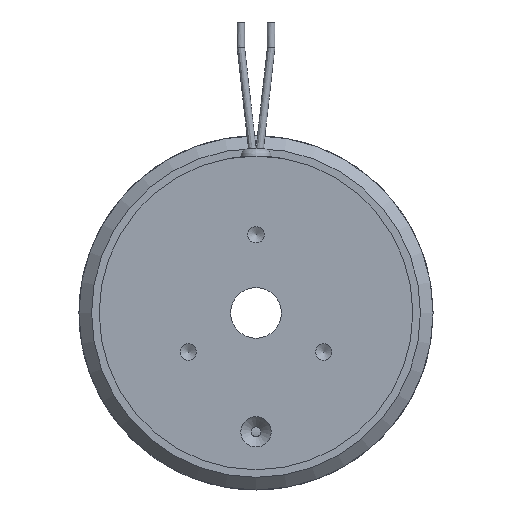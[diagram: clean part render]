
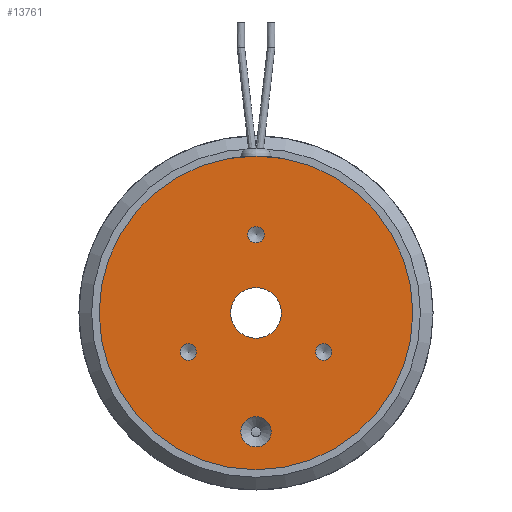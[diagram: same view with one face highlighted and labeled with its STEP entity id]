
A CAD part, left-side view. The second image highlights one B-rep face of the part: STEP entity #13761.
In plain terms, the highlighted planar face has unit normal (-1, 0, 0).
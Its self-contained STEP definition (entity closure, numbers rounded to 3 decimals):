
#56=FACE_BOUND('',#1509,.T.);
#57=FACE_BOUND('',#1510,.T.);
#58=FACE_BOUND('',#1511,.T.);
#59=FACE_BOUND('',#1512,.T.);
#60=FACE_BOUND('',#1513,.T.);
#214=PLANE('',#15339);
#794=FACE_OUTER_BOUND('',#1508,.T.);
#1508=EDGE_LOOP('',(#11271));
#1509=EDGE_LOOP('',(#11272));
#1510=EDGE_LOOP('',(#11273));
#1511=EDGE_LOOP('',(#11274));
#1512=EDGE_LOOP('',(#11275));
#1513=EDGE_LOOP('',(#11276));
#4179=CIRCLE('',#14998,31.);
#4362=CIRCLE('',#15315,3.);
#4365=CIRCLE('',#15321,1.621);
#4367=CIRCLE('',#15325,1.621);
#4369=CIRCLE('',#15329,1.621);
#4372=CIRCLE('',#15338,5.);
#5415=VERTEX_POINT('',#22811);
#5677=VERTEX_POINT('',#23666);
#5681=VERTEX_POINT('',#23679);
#5684=VERTEX_POINT('',#23688);
#5687=VERTEX_POINT('',#23697);
#5690=VERTEX_POINT('',#23713);
#7171=EDGE_CURVE('',#5415,#5415,#4179,.T.);
#7575=EDGE_CURVE('',#5677,#5677,#4362,.T.);
#7581=EDGE_CURVE('',#5681,#5681,#4365,.T.);
#7585=EDGE_CURVE('',#5684,#5684,#4367,.T.);
#7589=EDGE_CURVE('',#5687,#5687,#4369,.T.);
#7597=EDGE_CURVE('',#5690,#5690,#4372,.T.);
#11271=ORIENTED_EDGE('',*,*,#7171,.F.);
#11272=ORIENTED_EDGE('',*,*,#7575,.T.);
#11273=ORIENTED_EDGE('',*,*,#7581,.T.);
#11274=ORIENTED_EDGE('',*,*,#7585,.T.);
#11275=ORIENTED_EDGE('',*,*,#7589,.T.);
#11276=ORIENTED_EDGE('',*,*,#7597,.T.);
#13761=ADVANCED_FACE('',(#794,#56,#57,#58,#59,#60),#214,.T.);
#14998=AXIS2_PLACEMENT_3D('',#22813,#18416,#18417);
#15315=AXIS2_PLACEMENT_3D('',#23667,#19269,#19270);
#15321=AXIS2_PLACEMENT_3D('',#23680,#19284,#19285);
#15325=AXIS2_PLACEMENT_3D('',#23689,#19294,#19295);
#15329=AXIS2_PLACEMENT_3D('',#23698,#19304,#19305);
#15338=AXIS2_PLACEMENT_3D('',#23715,#19327,#19328);
#15339=AXIS2_PLACEMENT_3D('',#23716,#19329,#19330);
#18416=DIRECTION('center_axis',(1.,0.,0.));
#18417=DIRECTION('ref_axis',(0.,0.,-1.));
#19269=DIRECTION('center_axis',(1.,0.,0.));
#19270=DIRECTION('ref_axis',(0.,0.,1.));
#19284=DIRECTION('center_axis',(1.,0.,0.));
#19285=DIRECTION('ref_axis',(0.,0.,1.));
#19294=DIRECTION('center_axis',(1.,0.,0.));
#19295=DIRECTION('ref_axis',(0.,0.,1.));
#19304=DIRECTION('center_axis',(1.,0.,0.));
#19305=DIRECTION('ref_axis',(0.,0.,1.));
#19327=DIRECTION('center_axis',(1.,0.,0.));
#19328=DIRECTION('ref_axis',(0.,0.,-1.));
#19329=DIRECTION('center_axis',(-1.,0.,0.));
#19330=DIRECTION('ref_axis',(0.,0.,1.));
#22811=CARTESIAN_POINT('',(-10.5,-31.,0.));
#22813=CARTESIAN_POINT('Origin',(-10.5,0.,0.));
#23666=CARTESIAN_POINT('',(-10.5,0.,-26.5));
#23667=CARTESIAN_POINT('Origin',(-10.5,0.,-23.5));
#23679=CARTESIAN_POINT('',(-10.5,-13.384,-9.348));
#23680=CARTESIAN_POINT('Origin',(-10.5,-13.384,-7.727));
#23688=CARTESIAN_POINT('',(-10.5,13.384,-9.348));
#23689=CARTESIAN_POINT('Origin',(-10.5,13.384,-7.727));
#23697=CARTESIAN_POINT('',(-10.5,0.,13.834));
#23698=CARTESIAN_POINT('Origin',(-10.5,0.,15.455));
#23713=CARTESIAN_POINT('',(-10.5,-5.,0.));
#23715=CARTESIAN_POINT('Origin',(-10.5,0.,0.));
#23716=CARTESIAN_POINT('Origin',(-10.5,31.,0.));
